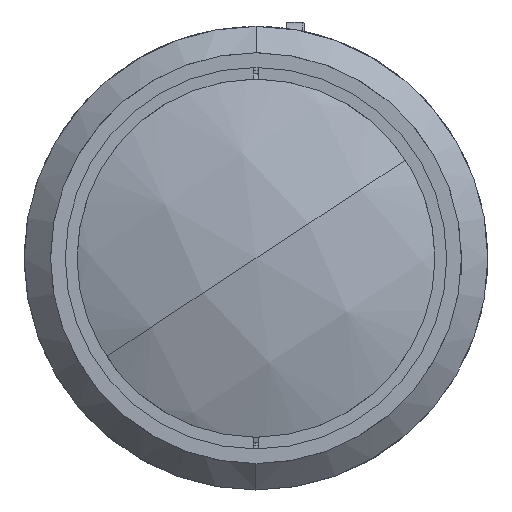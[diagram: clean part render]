
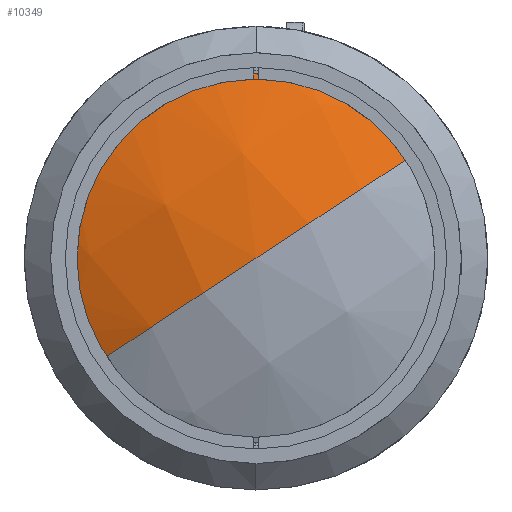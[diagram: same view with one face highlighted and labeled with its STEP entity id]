
A CAD part, left-side view. The second image highlights one B-rep face of the part: STEP entity #10349.
In plain terms, the highlighted spherical face has radius 77.627 mm.
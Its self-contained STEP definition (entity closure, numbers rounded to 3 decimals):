
#13 = DIRECTION ( 'NONE',  ( 0., -0.836, 0.549 ) ) ;
#364 = DIRECTION ( 'NONE',  ( 0., -0.836, 0.549 ) ) ;
#1929 = DIRECTION ( 'NONE',  ( 0., -0.549, -0.836 ) ) ;
#3251 = CARTESIAN_POINT ( 'NONE',  ( 7.678, -26.323, 17.302 ) ) ;
#5088 = CIRCLE ( 'NONE', #19998, 77.627 ) ;
#5231 = ORIENTED_EDGE ( 'NONE', *, *, #8239, .F. ) ;
#5556 = CARTESIAN_POINT ( 'NONE',  ( 1., 0., 0. ) ) ;
#8239 = EDGE_CURVE ( 'NONE', #18089, #10848, #5088, .T. ) ;
#8693 = AXIS2_PLACEMENT_3D ( 'NONE', #20960, #10779, #364 ) ;
#8707 = AXIS2_PLACEMENT_3D ( 'NONE', #20616, #10440, #13 ) ;
#9083 = CARTESIAN_POINT ( 'NONE',  ( 7.678, 0., 0. ) ) ;
#9161 = CARTESIAN_POINT ( 'NONE',  ( 7.678, 26.323, -17.302 ) ) ;
#10349 = ADVANCED_FACE ( 'NONE', ( #15531 ), #10992, .T. ) ;
#10440 = DIRECTION ( 'NONE',  ( 0., 0.549, 0.836 ) ) ;
#10779 = DIRECTION ( 'NONE',  ( 0., 0.549, 0.836 ) ) ;
#10816 = DIRECTION ( 'NONE',  ( 0., 0.549, 0.836 ) ) ;
#10848 = VERTEX_POINT ( 'NONE', #5556 ) ;
#10963 = CIRCLE ( 'NONE', #20510, 31.5 ) ;
#10992 = SPHERICAL_SURFACE ( 'NONE', #8693, 77.627 ) ;
#11187 = ORIENTED_EDGE ( 'NONE', *, *, #21392, .T. ) ;
#11651 = CIRCLE ( 'NONE', #8707, 77.627 ) ;
#12285 = CARTESIAN_POINT ( 'NONE',  ( 78.627, 0., 0. ) ) ;
#13228 = VERTEX_POINT ( 'NONE', #9161 ) ;
#14000 = DIRECTION ( 'NONE',  ( 0., 0.836, -0.549 ) ) ;
#15531 = FACE_OUTER_BOUND ( 'NONE', #21213, .T. ) ;
#17305 = ORIENTED_EDGE ( 'NONE', *, *, #18578, .T. ) ;
#18089 = VERTEX_POINT ( 'NONE', #3251 ) ;
#18578 = EDGE_CURVE ( 'NONE', #18089, #13228, #10963, .T. ) ;
#19998 = AXIS2_PLACEMENT_3D ( 'NONE', #12285, #1929, #14000 ) ;
#20510 = AXIS2_PLACEMENT_3D ( 'NONE', #9083, #20996, #10816 ) ;
#20616 = CARTESIAN_POINT ( 'NONE',  ( 78.627, 0., 0. ) ) ;
#20960 = CARTESIAN_POINT ( 'NONE',  ( 78.627, 0., 0. ) ) ;
#20996 = DIRECTION ( 'NONE',  ( -1., 0., 0. ) ) ;
#21213 = EDGE_LOOP ( 'NONE', ( #17305, #11187, #5231 ) ) ;
#21392 = EDGE_CURVE ( 'NONE', #13228, #10848, #11651, .T. ) ;
